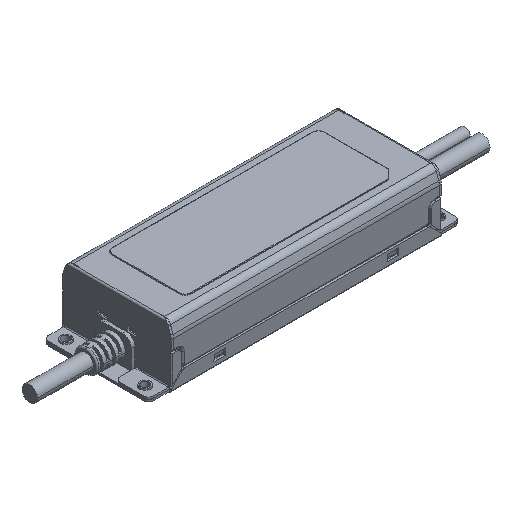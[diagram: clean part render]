
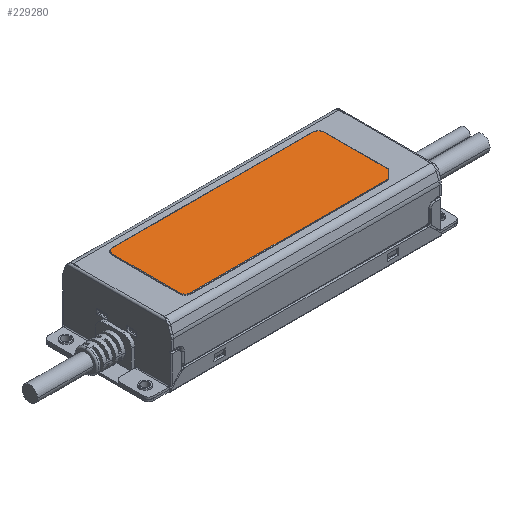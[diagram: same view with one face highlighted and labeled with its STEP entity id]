
A CAD part, isometric view. The second image highlights one B-rep face of the part: STEP entity #229280.
In plain terms, the highlighted planar face has unit normal (0, 0, 1).
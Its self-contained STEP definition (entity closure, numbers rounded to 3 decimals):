
#228540=CARTESIAN_POINT('',(149.066,46.025,34.3));
#228550=DIRECTION('',(0.,0.,1.));
#228560=DIRECTION('',(1.,0.,0.));
#228570=AXIS2_PLACEMENT_3D('',#228540,#228550,#228560);
#228580=PLANE('',#228570);
#228590=CARTESIAN_POINT('',(162.724,0.,34.3));
#228600=DIRECTION('',(-0.707,-0.707,0.));
#228610=VECTOR('',#228600,1.);
#228620=LINE('',#228590,#228610);
#228630=CARTESIAN_POINT('',(182.355,19.631,34.3));
#228640=VERTEX_POINT('',#228630);
#228650=CARTESIAN_POINT('',(177.472,14.748,34.3));
#228660=VERTEX_POINT('',#228650);
#228670=EDGE_CURVE('',#228640,#228660,#228620,.T.);
#228680=ORIENTED_EDGE('',*,*,#228670,.F.);
#228690=CARTESIAN_POINT('',(0.,14.748,34.3));
#228700=DIRECTION('',(1.,0.,0.));
#228710=VECTOR('',#228700,1.);
#228720=LINE('',#228690,#228710);
#228730=CARTESIAN_POINT('',(63.555,14.748,34.3));
#228740=VERTEX_POINT('',#228730);
#228750=EDGE_CURVE('',#228740,#228660,#228720,.T.);
#228760=ORIENTED_EDGE('',*,*,#228750,.T.);
#228770=CARTESIAN_POINT('',(63.555,18.048,34.3));
#228780=DIRECTION('',(0.,0.,-1.));
#228790=DIRECTION('',(-1.,0.,0.));
#228800=AXIS2_PLACEMENT_3D('',#228770,#228780,#228790);
#228810=CIRCLE('',#228800,3.3);
#228820=CARTESIAN_POINT('',(60.255,18.048,34.3));
#228830=VERTEX_POINT('',#228820);
#228840=EDGE_CURVE('',#228740,#228830,#228810,.T.);
#228850=ORIENTED_EDGE('',*,*,#228840,.F.);
#228860=CARTESIAN_POINT('',(60.255,0.,34.3));
#228870=DIRECTION('',(0.,-1.,0.));
#228880=VECTOR('',#228870,1.);
#228890=LINE('',#228860,#228880);
#228900=CARTESIAN_POINT('',(60.255,56.548,34.3));
#228910=VERTEX_POINT('',#228900);
#228920=EDGE_CURVE('',#228910,#228830,#228890,.T.);
#228930=ORIENTED_EDGE('',*,*,#228920,.T.);
#228940=CARTESIAN_POINT('',(63.555,56.548,34.3));
#228950=DIRECTION('',(0.,0.,1.));
#228960=DIRECTION('',(1.,0.,0.));
#228970=AXIS2_PLACEMENT_3D('',#228940,#228950,#228960);
#228980=CIRCLE('',#228970,3.3);
#228990=CARTESIAN_POINT('',(63.555,59.848,34.3));
#229000=VERTEX_POINT('',#228990);
#229010=EDGE_CURVE('',#229000,#228910,#228980,.T.);
#229020=ORIENTED_EDGE('',*,*,#229010,.T.);
#229030=CARTESIAN_POINT('',(0.,59.848,34.3));
#229040=DIRECTION('',(-1.,0.,0.));
#229050=VECTOR('',#229040,1.);
#229060=LINE('',#229030,#229050);
#229070=CARTESIAN_POINT('',(179.055,59.848,34.3));
#229080=VERTEX_POINT('',#229070);
#229090=EDGE_CURVE('',#229080,#229000,#229060,.T.);
#229100=ORIENTED_EDGE('',*,*,#229090,.T.);
#229110=CARTESIAN_POINT('',(179.055,56.548,34.3));
#229120=DIRECTION('',(0.,0.,-1.));
#229130=DIRECTION('',(-1.,0.,0.));
#229140=AXIS2_PLACEMENT_3D('',#229110,#229120,#229130);
#229150=CIRCLE('',#229140,3.3);
#229160=CARTESIAN_POINT('',(182.355,56.548,34.3));
#229170=VERTEX_POINT('',#229160);
#229180=EDGE_CURVE('',#229080,#229170,#229150,.T.);
#229190=ORIENTED_EDGE('',*,*,#229180,.F.);
#229200=CARTESIAN_POINT('',(182.355,0.,34.3));
#229210=DIRECTION('',(0.,1.,0.));
#229220=VECTOR('',#229210,1.);
#229230=LINE('',#229200,#229220);
#229240=EDGE_CURVE('',#228640,#229170,#229230,.T.);
#229250=ORIENTED_EDGE('',*,*,#229240,.T.);
#229260=EDGE_LOOP('',(#229250,#229190,#229100,#229020,#228930,#228850,
#228760,#228680));
#229270=FACE_OUTER_BOUND('',#229260,.T.);
#229280=ADVANCED_FACE('',(#229270),#228580,.T.);
